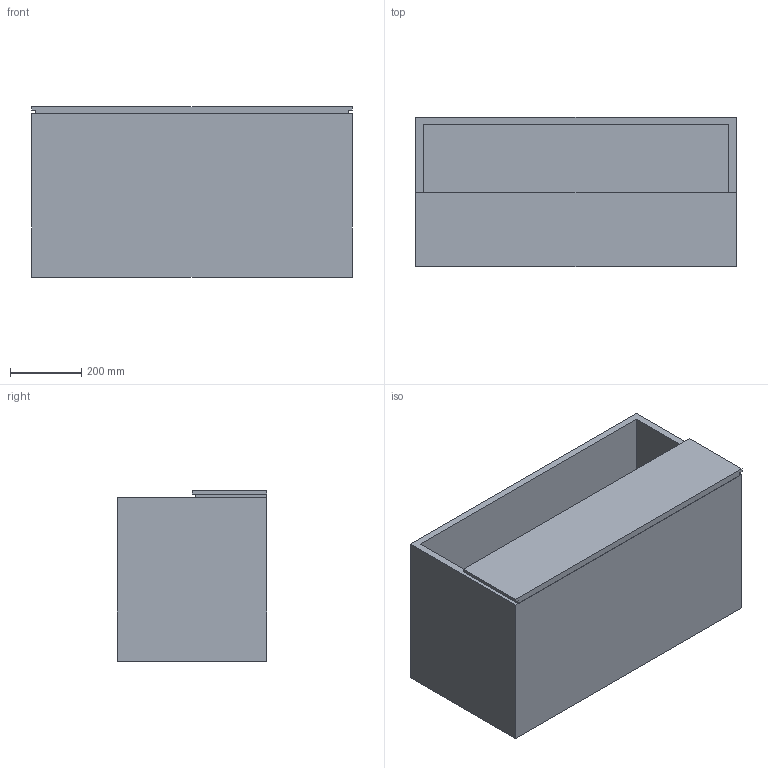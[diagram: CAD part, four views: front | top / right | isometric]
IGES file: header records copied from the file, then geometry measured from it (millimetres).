
Start section: SolidWorks IGES file using NURBS representation for surfaces
Global section: file name: G:\VICCARBE\PRODUCTOS\20-DO IT\04-MODELADOS (PLANOS)\SOLIDWORKS\Contenedores\IGES\VICCARBE_DO23.IGS; native system: SolidWorks 2009; preprocessor: SolidWorks 2009; author: RUBEN; date: 111102.121135; units: millimetre
Bounding box: 900 x 420 x 479 mm (x, y, z)
Surface area: 4275142 mm2 (no closed solid volume)
Topology: 0 solids, 0 shells, 27 faces, 120 edges, 120 vertices
Faces by surface type: bspline 27
